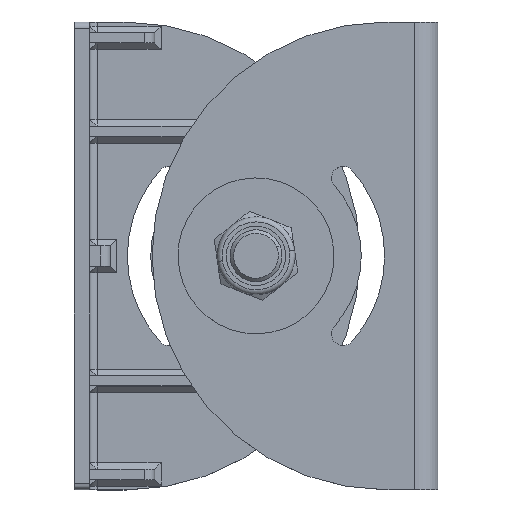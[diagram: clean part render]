
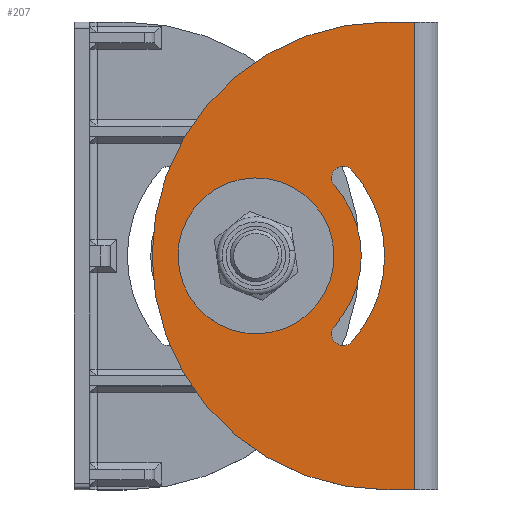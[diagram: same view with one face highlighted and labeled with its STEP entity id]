
A CAD part, top view. The second image highlights one B-rep face of the part: STEP entity #207.
In plain terms, the highlighted planar face has unit normal (0, 0, 1) as drawn and (0, 0, -1) by its records, which use the part's own axes.
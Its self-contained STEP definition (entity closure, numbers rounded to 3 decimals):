
#207 = ADVANCED_FACE ( 'NONE', ( #4624, #4751, #4726 ), #6770, .T. ) ;
#282 = DIRECTION ( 'NONE',  ( -1., 0., 0. ) ) ;
#308 = DIRECTION ( 'NONE',  ( 0., 0., 1. ) ) ;
#418 = DIRECTION ( 'NONE',  ( -1., 0., 0. ) ) ;
#440 = CARTESIAN_POINT ( 'NONE',  ( 70., 0., -6. ) ) ;
#640 = DIRECTION ( 'NONE',  ( 0., 0., -1. ) ) ;
#700 = CARTESIAN_POINT ( 'NONE',  ( 70., 0., -6. ) ) ;
#703 = CARTESIAN_POINT ( 'NONE',  ( 20., 0., -6. ) ) ;
#777 = CARTESIAN_POINT ( 'NONE',  ( 70., 0., -6. ) ) ;
#783 = DIRECTION ( 'NONE',  ( -1., 0., 0. ) ) ;
#794 = DIRECTION ( 'NONE',  ( 0., 0., -1. ) ) ;
#802 = DIRECTION ( 'NONE',  ( 0., 0., 1. ) ) ;
#819 = DIRECTION ( 'NONE',  ( -1., 0., 0. ) ) ;
#932 = ORIENTED_EDGE ( 'NONE', *, *, #3666, .F. ) ;
#933 = ORIENTED_EDGE ( 'NONE', *, *, #3442, .F. ) ;
#934 = ORIENTED_EDGE ( 'NONE', *, *, #3350, .F. ) ;
#935 = ORIENTED_EDGE ( 'NONE', *, *, #3667, .F. ) ;
#936 = ORIENTED_EDGE ( 'NONE', *, *, #3663, .F. ) ;
#937 = ORIENTED_EDGE ( 'NONE', *, *, #3337, .F. ) ;
#938 = ORIENTED_EDGE ( 'NONE', *, *, #3660, .F. ) ;
#939 = ORIENTED_EDGE ( 'NONE', *, *, #3664, .F. ) ;
#943 = ORIENTED_EDGE ( 'NONE', *, *, #3665, .F. ) ;
#948 = ORIENTED_EDGE ( 'NONE', *, *, #3657, .F. ) ;
#949 = ORIENTED_EDGE ( 'NONE', *, *, #3661, .F. ) ;
#950 = ORIENTED_EDGE ( 'NONE', *, *, #3331, .F. ) ;
#952 = ORIENTED_EDGE ( 'NONE', *, *, #3662, .T. ) ;
#1209 = VERTEX_POINT ( 'NONE', #6978 ) ;
#1212 = VERTEX_POINT ( 'NONE', #6980 ) ;
#1213 = VERTEX_POINT ( 'NONE', #6984 ) ;
#1214 = VERTEX_POINT ( 'NONE', #6982 ) ;
#1220 = VERTEX_POINT ( 'NONE', #6848 ) ;
#1223 = VERTEX_POINT ( 'NONE', #6842 ) ;
#1284 = EDGE_LOOP ( 'NONE', ( #943, #933 ) ) ;
#1579 = EDGE_LOOP ( 'NONE', ( #932, #934, #939, #938, #937, #936 ) ) ;
#1882 = VERTEX_POINT ( 'NONE', #6655 ) ;
#1902 = VERTEX_POINT ( 'NONE', #6648 ) ;
#1958 = VERTEX_POINT ( 'NONE', #6311 ) ;
#1960 = VERTEX_POINT ( 'NONE', #6788 ) ;
#1966 = VERTEX_POINT ( 'NONE', #6801 ) ;
#1967 = VERTEX_POINT ( 'NONE', #6635 ) ;
#1969 = VERTEX_POINT ( 'NONE', #6763 ) ;
#2048 = EDGE_LOOP ( 'NONE', ( #935, #952, #949, #948, #950 ) ) ;
#3058 = CARTESIAN_POINT ( 'NONE',  ( 70., 0., -6. ) ) ;
#3060 = DIRECTION ( 'NONE',  ( 0., 0., 1. ) ) ;
#3061 = CARTESIAN_POINT ( 'NONE',  ( 70., 0., -6. ) ) ;
#3064 = DIRECTION ( 'NONE',  ( 0., 0., -1. ) ) ;
#3066 = DIRECTION ( 'NONE',  ( -1., 0., 0. ) ) ;
#3068 = DIRECTION ( 'NONE',  ( -1., 0., 0. ) ) ;
#3069 = DIRECTION ( 'NONE',  ( -1., 0., 0. ) ) ;
#3070 = DIRECTION ( 'NONE',  ( 0., 0., -1. ) ) ;
#3071 = CARTESIAN_POINT ( 'NONE',  ( 36.459, -30., -6. ) ) ;
#3073 = DIRECTION ( 'NONE',  ( 1., 0., 0. ) ) ;
#3074 = CARTESIAN_POINT ( 'NONE',  ( 0., -90., -6. ) ) ;
#3075 = DIRECTION ( 'NONE',  ( 0., 0., -1. ) ) ;
#3076 = CARTESIAN_POINT ( 'NONE',  ( 70., 0., -6. ) ) ;
#3106 = CARTESIAN_POINT ( 'NONE',  ( 20., 0., -6. ) ) ;
#3108 = DIRECTION ( 'NONE',  ( 0., 0., 1. ) ) ;
#3109 = DIRECTION ( 'NONE',  ( -1., 0., 0. ) ) ;
#3116 = CARTESIAN_POINT ( 'NONE',  ( 0., 90., -6. ) ) ;
#3117 = DIRECTION ( 'NONE',  ( -1., 0., 0. ) ) ;
#3128 = CARTESIAN_POINT ( 'NONE',  ( 9., -90., -6. ) ) ;
#3130 = CARTESIAN_POINT ( 'NONE',  ( 36.459, 30., -6. ) ) ;
#3132 = DIRECTION ( 'NONE',  ( 0., 0., -1. ) ) ;
#3191 = DIRECTION ( 'NONE',  ( -1., 0., 0. ) ) ;
#3193 = DIRECTION ( 'NONE',  ( -1., 0., 0. ) ) ;
#3310 = DIRECTION ( 'NONE',  ( 0., 1., 0. ) ) ;
#3331 = EDGE_CURVE ( 'NONE', #1223, #1220, #5111, .T. ) ;
#3337 = EDGE_CURVE ( 'NONE', #1960, #1958, #5019, .T. ) ;
#3350 = EDGE_CURVE ( 'NONE', #1969, #1967, #5168, .T. ) ;
#3442 = EDGE_CURVE ( 'NONE', #1882, #1966, #4896, .T. ) ;
#3657 = EDGE_CURVE ( 'NONE', #1220, #1902, #4250, .T. ) ;
#3660 = EDGE_CURVE ( 'NONE', #1958, #1213, #4434, .T. ) ;
#3661 = EDGE_CURVE ( 'NONE', #1902, #1209, #4325, .T. ) ;
#3662 = EDGE_CURVE ( 'NONE', #1212, #1209, #4346, .T. ) ;
#3663 = EDGE_CURVE ( 'NONE', #1214, #1960, #4695, .T. ) ;
#3664 = EDGE_CURVE ( 'NONE', #1213, #1969, #4309, .T. ) ;
#3665 = EDGE_CURVE ( 'NONE', #1966, #1882, #4337, .T. ) ;
#3666 = EDGE_CURVE ( 'NONE', #1967, #1214, #4459, .T. ) ;
#3667 = EDGE_CURVE ( 'NONE', #1212, #1223, #4324, .T. ) ;
#4250 = CIRCLE ( 'NONE', #6092, 90. ) ;
#4309 = CIRCLE ( 'NONE', #5970, 40.5 ) ;
#4324 = LINE ( 'NONE', #3074, #4536 ) ;
#4325 = LINE ( 'NONE', #3116, #4393 ) ;
#4337 = CIRCLE ( 'NONE', #5948, 20.355 ) ;
#4340 = VECTOR ( 'NONE', #3310, 1000. ) ;
#4346 = LINE ( 'NONE', #3128, #4340 ) ;
#4393 = VECTOR ( 'NONE', #3117, 1000. ) ;
#4434 = CIRCLE ( 'NONE', #5966, 4.5 ) ;
#4459 = CIRCLE ( 'NONE', #6207, 4.5 ) ;
#4536 = VECTOR ( 'NONE', #3073, 1000. ) ;
#4624 = FACE_BOUND ( 'NONE', #1284, .T. ) ;
#4695 = CIRCLE ( 'NONE', #6093, 49.5 ) ;
#4726 = FACE_OUTER_BOUND ( 'NONE', #2048, .T. ) ;
#4751 = FACE_BOUND ( 'NONE', #1579, .T. ) ;
#4896 = CIRCLE ( 'NONE', #6003, 20.355 ) ;
#5019 = CIRCLE ( 'NONE', #6109, 49.5 ) ;
#5111 = CIRCLE ( 'NONE', #6150, 90. ) ;
#5168 = CIRCLE ( 'NONE', #6008, 40.5 ) ;
#5948 = AXIS2_PLACEMENT_3D ( 'NONE', #3076, #3075, #3068 ) ;
#5966 = AXIS2_PLACEMENT_3D ( 'NONE', #3130, #3132, #3191 ) ;
#5970 = AXIS2_PLACEMENT_3D ( 'NONE', #3058, #3060, #3193 ) ;
#6003 = AXIS2_PLACEMENT_3D ( 'NONE', #700, #640, #819 ) ;
#6008 = AXIS2_PLACEMENT_3D ( 'NONE', #440, #802, #418 ) ;
#6092 = AXIS2_PLACEMENT_3D ( 'NONE', #3106, #3108, #3109 ) ;
#6093 = AXIS2_PLACEMENT_3D ( 'NONE', #3061, #3064, #3066 ) ;
#6109 = AXIS2_PLACEMENT_3D ( 'NONE', #777, #794, #783 ) ;
#6150 = AXIS2_PLACEMENT_3D ( 'NONE', #703, #308, #282 ) ;
#6207 = AXIS2_PLACEMENT_3D ( 'NONE', #3071, #3070, #3069 ) ;
#6209 = AXIS2_PLACEMENT_3D ( 'NONE', #6319, #6561, #6628 ) ;
#6311 = CARTESIAN_POINT ( 'NONE',  ( 33.105, 33., -6. ) ) ;
#6319 = CARTESIAN_POINT ( 'NONE',  ( 20., 0., -6. ) ) ;
#6561 = DIRECTION ( 'NONE',  ( 0., 0., -1. ) ) ;
#6628 = DIRECTION ( 'NONE',  ( -1., 0., 0. ) ) ;
#6635 = CARTESIAN_POINT ( 'NONE',  ( 39.813, -27., -6. ) ) ;
#6648 = CARTESIAN_POINT ( 'NONE',  ( 20., 90., -6. ) ) ;
#6655 = CARTESIAN_POINT ( 'NONE',  ( 90.355, 0., -6. ) ) ;
#6763 = CARTESIAN_POINT ( 'NONE',  ( 29.5, 0., -6. ) ) ;
#6770 = PLANE ( 'NONE',  #6209 ) ;
#6788 = CARTESIAN_POINT ( 'NONE',  ( 20.5, 0., -6. ) ) ;
#6801 = CARTESIAN_POINT ( 'NONE',  ( 49.645, 0., -6. ) ) ;
#6842 = CARTESIAN_POINT ( 'NONE',  ( 20., -90., -6. ) ) ;
#6848 = CARTESIAN_POINT ( 'NONE',  ( 110., 0., -6. ) ) ;
#6978 = CARTESIAN_POINT ( 'NONE',  ( 9., 90., -6. ) ) ;
#6980 = CARTESIAN_POINT ( 'NONE',  ( 9., -90., -6. ) ) ;
#6982 = CARTESIAN_POINT ( 'NONE',  ( 33.105, -33., -6. ) ) ;
#6984 = CARTESIAN_POINT ( 'NONE',  ( 39.813, 27., -6. ) ) ;
